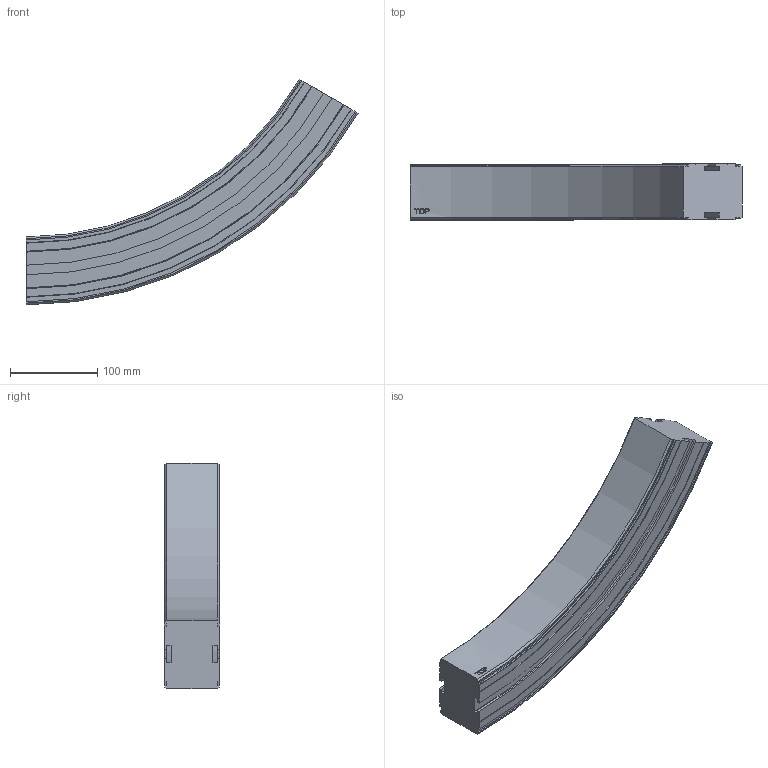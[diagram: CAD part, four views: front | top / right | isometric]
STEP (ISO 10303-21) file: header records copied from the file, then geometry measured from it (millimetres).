
FILE_DESCRIPTION((''),'2;1');
FILE_NAME('C:\Vault Klient\Projekt\Koncept konstruktion\Serie 620 Balk\620-5630_UP.stp','2009-11-26T15:42:03',('Mathias'),(''),'Autodesk Inventor 2010','Autodesk Inventor 2010','');
FILE_SCHEMA(('AUTOMOTIVE_DESIGN { 1 0 10303 214 1 1 1 1 }'));
Length unit declared in the file: millimetre
Products named in the file (1): 620-5630_UP
Bounding box: 381.05 x 64 x 259 mm (x, y, z)
Volume: 1952791.9 mm3; surface area: 160615.2 mm2
Topology: 1 solids, 1 shells, 93 faces, 258 edges, 172 vertices
Faces by surface type: plane 40, cylinder 23, bspline 14, cone 12, torus 4
Entity records: 3377 total; most frequent: CARTESIAN_POINT 942, ORIENTED_EDGE 516, DIRECTION 472, EDGE_CURVE 258, VERTEX_POINT 172, AXIS2_PLACEMENT_3D 162, VECTOR 148, LINE 148
